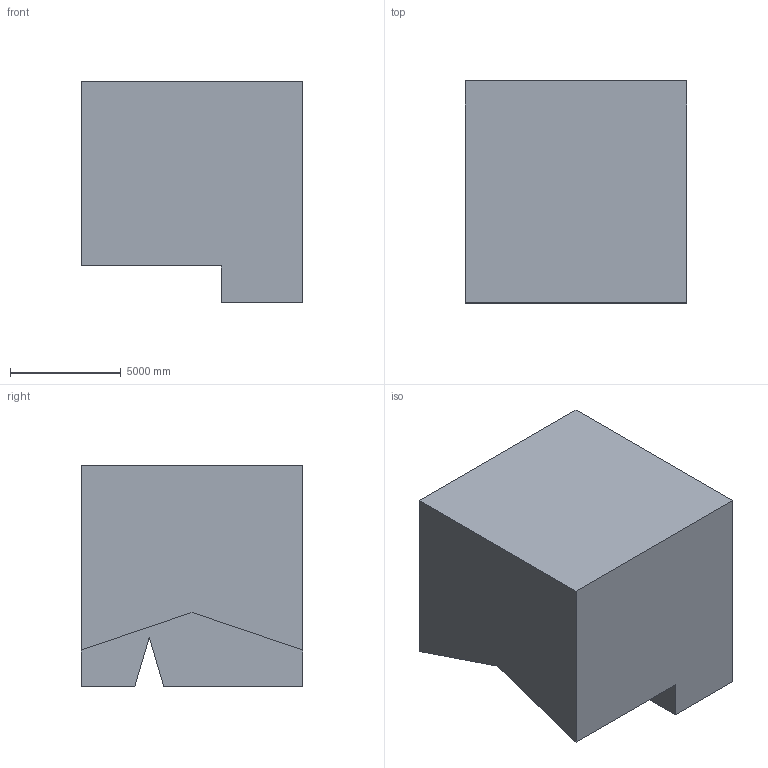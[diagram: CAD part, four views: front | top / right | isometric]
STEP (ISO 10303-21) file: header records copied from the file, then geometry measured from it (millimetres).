
FILE_DESCRIPTION (( 'STEP AP203' ), '1' );
FILE_NAME ('119.STEP', '2022-09-06T13:18:53', ( 'user' ), ( '' ), 'SwSTEP 2.0', 'SolidWorks 2021', '' );
FILE_SCHEMA (( 'CONFIG_CONTROL_DESIGN' ));
Length unit declared in the file: centimetre
Products named in the file (1): 119
Bounding box: 10000 x 10000 x 10000 mm (x, y, z)
Volume: 835797134962.7 mm3; surface area: 591727563.7 mm2
Topology: 1 solids, 1 shells, 12 faces, 30 edges, 20 vertices
Faces by surface type: plane 12
Entity records: 431 total; most frequent: CARTESIAN_POINT 63, ORIENTED_EDGE 60, DIRECTION 56, EDGE_CURVE 30, VECTOR 30, LINE 30, VERTEX_POINT 20, AXIS2_PLACEMENT_3D 13
